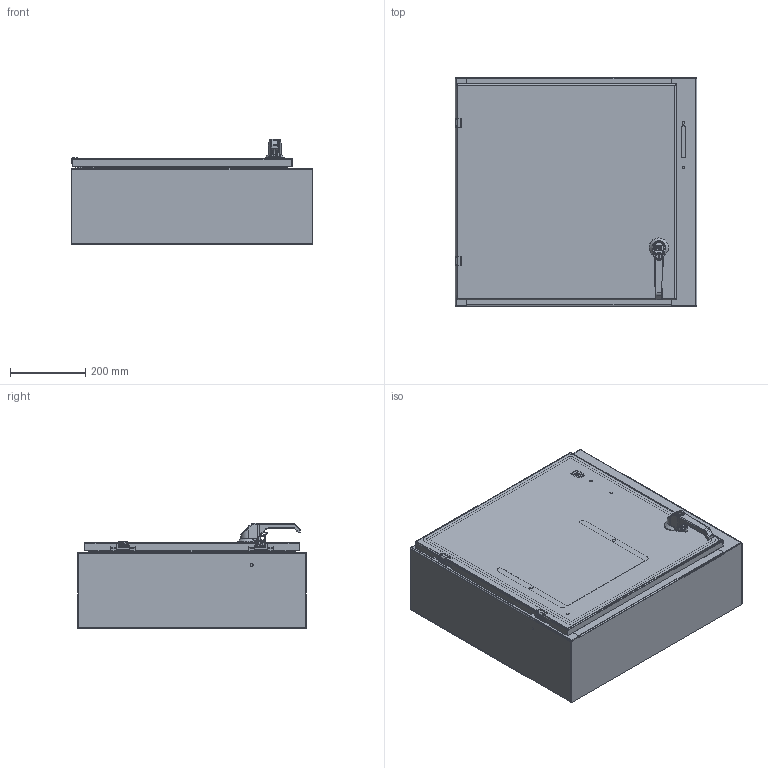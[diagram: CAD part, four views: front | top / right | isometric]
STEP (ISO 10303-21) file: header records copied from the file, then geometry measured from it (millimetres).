
FILE_DESCRIPTION((''),'2;1');
FILE_NAME('MODEL-315_ASM','2021-05-11T11:24:39',('mikek'),('SAGINAW CONTROL & ENGINEERING'),'CREO PARAMETRIC BY PTC INC, 2017260','CREO PARAMETRIC BY PTC INC, 2017260','');
FILE_SCHEMA(('AUTOMOTIVE_DESIGN { 1 0 10303 214 1 1 1 1 }'));
Length unit declared in the file: inch
Products named in the file (48): MODEL-315-BDY; MODEL-315-TP; MODEL-315-BTM; MODEL-315-DR; 100837; 100882; 111267; 100953_HANDLE; 100953_HANDLE_INSERT; 100953_SHAFT_CAM; 100953_ADAPTER_CAM; 100953_NUT_CAM; 100953_BASE; 100953_O-RING; 100953_WASHER_SEALING; 100953_NUT_MOUNTING_LARGE; 100953_NUT_MOUNTING_SMALL; 100953_SCREW_SMALL; 100953_INSERT; 100953_PADLOCK_CATCH; 100953_ASM; 128142; 100030; 128142_ASM; MODEL-315-ROD-UPR; 128146; 128145; 128144; 102482; MODEL-315-ROD-UPR_ASM; 128143; 112504; MODEL-315-POUR-GSKT; 126392; 126397; 126392_ASM; 126395; 102483; 101226; 101389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
Assembly tree (74 placements, depth 4):
  MODEL-315_ASM
    MODEL-315-BDY
    MODEL-315-TP
    MODEL-315-BTM
    MODEL-315-DR-ASSY_ASM
      MODEL-315-DR
      100837  x6
      100882  x3
      111267
      100953_ASM
        100953_HANDLE
        100953_HANDLE_INSERT
        100953_SHAFT_CAM
        100953_ADAPTER_CAM
        100953_NUT_CAM
        100953_BASE
        100953_O-RING
        100953_WASHER_SEALING
        100953_NUT_MOUNTING_LARGE
        100953_NUT_MOUNTING_SMALL
        100953_SCREW_SMALL
        100953_INSERT
        100953_PADLOCK_CATCH
      128142_ASM
        128142
        100030  x2
      MODEL-315-ROD-UPR_ASM
        MODEL-315-ROD-UPR
        128146
        128145
        128144
        102482  x2
      128143
      112504
      MODEL-315-POUR-GSKT
      126392_ASM  x2
        126392
        126397
      126395  x2
      102483  x6
      101226  x2
      101389  x2
      102140  x2
    100837  x2
    101653  x4
    122191
    SUBPANEL-SUBASSEMBLY_ASM
      SUBPANEL
      100904  x4
Bounding box: 644.52 x 609.6 x 280.33 mm (x, y, z)
Volume: 4280973 mm3; surface area: 3863208.2 mm2
Topology: 68 solids, 68 shells, 5163 faces, 13114 edges, 8095 vertices
Faces by surface type: plane 1796, cylinder 1416, bspline 866, cone 533, torus 398, sphere 154
Entity records: 202597 total; most frequent: CARTESIAN_POINT 70551, ORIENTED_EDGE 19754, DIRECTION 18118, PRESENTATION_STYLE_ASSIGNMENT 10063, STYLED_ITEM 9917, CURVE_STYLE 9877, EDGE_CURVE 9877, AXIS2_PLACEMENT_3D 6795
